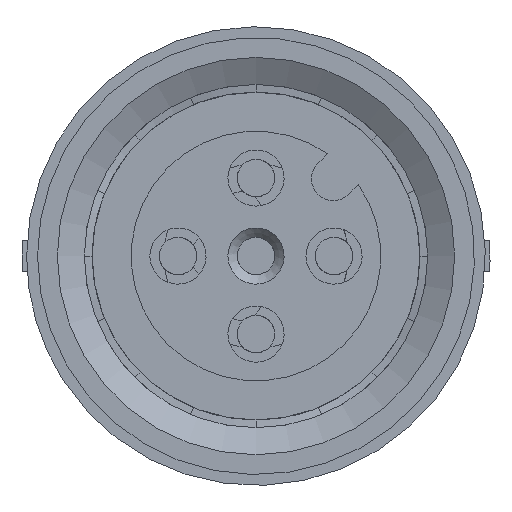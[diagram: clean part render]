
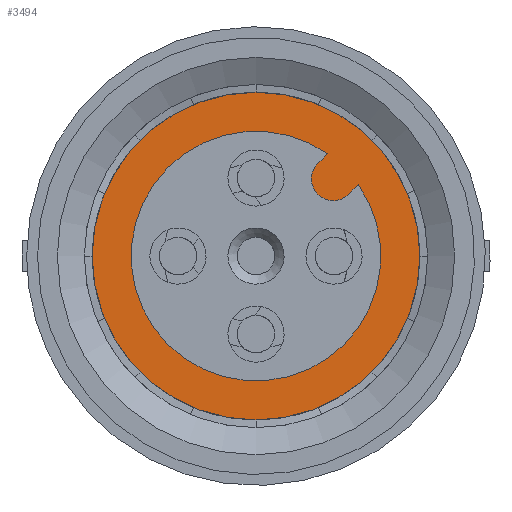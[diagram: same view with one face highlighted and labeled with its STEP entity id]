
A CAD part, left-side view. The second image highlights one B-rep face of the part: STEP entity #3494.
In plain terms, the highlighted planar face has unit normal (-1, 0, 0).
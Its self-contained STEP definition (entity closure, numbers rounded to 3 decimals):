
#130=PLANE('',#3798);
#188=FACE_BOUND('',#492,.T.);
#282=FACE_OUTER_BOUND('',#491,.T.);
#491=EDGE_LOOP('',(#2705,#2706));
#492=EDGE_LOOP('',(#2707,#2708,#2709,#2710));
#716=LINE('',#7489,#959);
#717=LINE('',#7492,#960);
#959=VECTOR('',#4504,1.);
#960=VECTOR('',#4507,1.);
#1193=CIRCLE('',#3796,5.25);
#1194=CIRCLE('',#3797,5.25);
#1195=CIRCLE('',#3799,0.7);
#1196=CIRCLE('',#3800,4.);
#1514=VERTEX_POINT('',#7479);
#1515=VERTEX_POINT('',#7480);
#1516=VERTEX_POINT('',#7485);
#1517=VERTEX_POINT('',#7486);
#1518=VERTEX_POINT('',#7488);
#1519=VERTEX_POINT('',#7490);
#1950=EDGE_CURVE('',#1514,#1515,#1193,.T.);
#1951=EDGE_CURVE('',#1515,#1514,#1194,.T.);
#1953=EDGE_CURVE('',#1516,#1517,#1195,.T.);
#1954=EDGE_CURVE('',#1517,#1518,#716,.T.);
#1955=EDGE_CURVE('',#1518,#1519,#1196,.T.);
#1956=EDGE_CURVE('',#1519,#1516,#717,.T.);
#2705=ORIENTED_EDGE('',*,*,#1950,.T.);
#2706=ORIENTED_EDGE('',*,*,#1951,.T.);
#2707=ORIENTED_EDGE('',*,*,#1953,.T.);
#2708=ORIENTED_EDGE('',*,*,#1954,.T.);
#2709=ORIENTED_EDGE('',*,*,#1955,.T.);
#2710=ORIENTED_EDGE('',*,*,#1956,.T.);
#3494=ADVANCED_FACE('',(#282,#188),#130,.T.);
#3796=AXIS2_PLACEMENT_3D('',#7481,#4495,#4496);
#3797=AXIS2_PLACEMENT_3D('',#7482,#4497,#4498);
#3798=AXIS2_PLACEMENT_3D('',#7484,#4500,#4501);
#3799=AXIS2_PLACEMENT_3D('',#7487,#4502,#4503);
#3800=AXIS2_PLACEMENT_3D('',#7491,#4505,#4506);
#4495=DIRECTION('center_axis',(-1.,0.,0.));
#4496=DIRECTION('ref_axis',(0.,-1.,0.));
#4497=DIRECTION('center_axis',(-1.,0.,0.));
#4498=DIRECTION('ref_axis',(0.,-1.,0.));
#4500=DIRECTION('center_axis',(-1.,0.,0.));
#4501=DIRECTION('ref_axis',(0.,0.,-1.));
#4502=DIRECTION('center_axis',(-1.,0.,0.));
#4503=DIRECTION('ref_axis',(0.,-0.707,0.707));
#4504=DIRECTION('',(0.,-0.707,0.707));
#4505=DIRECTION('center_axis',(1.,0.,0.));
#4506=DIRECTION('ref_axis',(0.,1.,0.));
#4507=DIRECTION('',(0.,0.707,-0.707));
#7479=CARTESIAN_POINT('',(9.,-5.25,0.));
#7480=CARTESIAN_POINT('',(9.,5.25,0.));
#7481=CARTESIAN_POINT('Origin',(9.,0.,
0.));
#7482=CARTESIAN_POINT('Origin',(9.,0.,
0.));
#7484=CARTESIAN_POINT('Origin',(9.,-1.489,-1.599));
#7485=CARTESIAN_POINT('',(9.,-1.98,2.969));
#7486=CARTESIAN_POINT('',(9.,-2.97,1.979));
#7487=CARTESIAN_POINT('Origin',(9.,-2.475,2.474));
#7488=CARTESIAN_POINT('',(9.,-3.28,2.289));
#7489=CARTESIAN_POINT('',(9.,2.304,-3.294));
#7490=CARTESIAN_POINT('',(9.,-2.29,3.279));
#7491=CARTESIAN_POINT('Origin',(9.,0.,
0.));
#7492=CARTESIAN_POINT('',(9.,4.284,-3.294));
